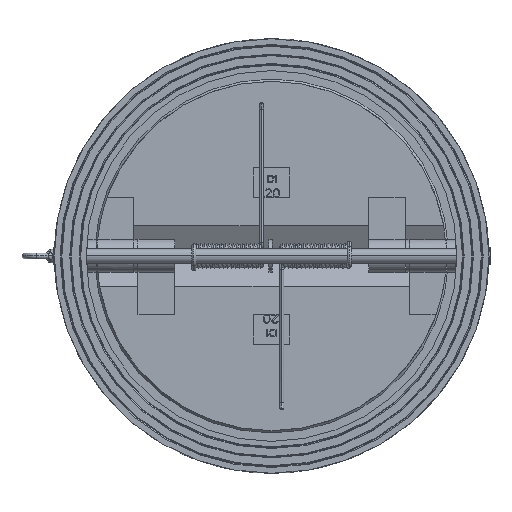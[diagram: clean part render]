
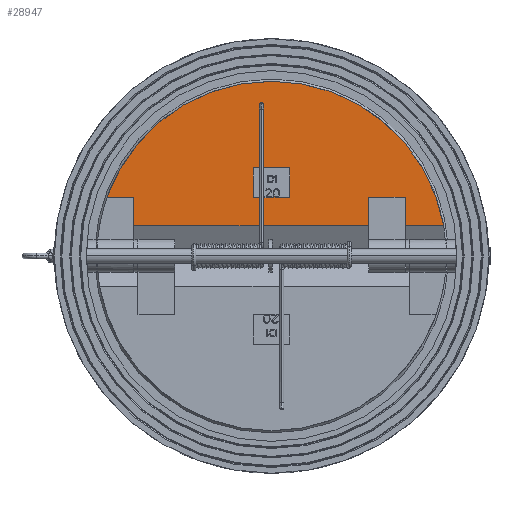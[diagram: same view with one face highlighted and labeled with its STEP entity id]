
A CAD part, front view. The second image highlights one B-rep face of the part: STEP entity #28947.
In plain terms, the highlighted planar face has unit normal (0, -1, 0) as drawn and (0, 1, 0) by its records, which use the part's own axes.
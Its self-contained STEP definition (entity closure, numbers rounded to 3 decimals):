
#27253=CARTESIAN_POINT('',(0.,26.,0.));
#27254=DIRECTION('',(0.,1.,0.));
#27255=DIRECTION('',(0.985,0.,-0.173));
#27256=AXIS2_PLACEMENT_3D('',#27253,#27254,#27255);
#27258=DIRECTION('',(1.,0.,0.));
#27259=VECTOR('',#27258,52.411);
#27260=CARTESIAN_POINT('',(182.,26.,-41.177));
#27261=LINE('',#27260,#27259);
#27262=DIRECTION('',(0.,0.,-1.));
#27263=VECTOR('',#27262,39.125);
#27264=CARTESIAN_POINT('',(182.,26.,-41.177));
#27265=LINE('',#27264,#27263);
#27266=DIRECTION('',(1.,0.,0.));
#27267=VECTOR('',#27266,50.);
#27268=CARTESIAN_POINT('',(132.,26.,-80.302));
#27269=LINE('',#27268,#27267);
#27270=DIRECTION('',(0.,0.,-1.));
#27271=VECTOR('',#27270,39.125);
#27272=CARTESIAN_POINT('',(132.,26.,-41.177));
#27273=LINE('',#27272,#27271);
#27274=DIRECTION('',(1.,0.,0.));
#27275=VECTOR('',#27274,320.);
#27276=CARTESIAN_POINT('',(-188.,26.,-41.177));
#27277=LINE('',#27276,#27275);
#27278=DIRECTION('',(0.,0.,-1.));
#27279=VECTOR('',#27278,39.125);
#27280=CARTESIAN_POINT('',(-188.,26.,-41.177));
#27281=LINE('',#27280,#27279);
#27282=DIRECTION('',(1.,0.,0.));
#27283=VECTOR('',#27282,36.044);
#27284=CARTESIAN_POINT('',(-224.044,26.,-80.302));
#27285=LINE('',#27284,#27283);
#27286=DIRECTION('',(1.,0.,0.));
#27287=VECTOR('',#27286,16.);
#27288=CARTESIAN_POINT('',(-25.,26.,-80.));
#27289=LINE('',#27288,#27287);
#27290=DIRECTION('',(0.,0.,1.));
#27291=VECTOR('',#27290,0.39);
#27292=CARTESIAN_POINT('',(-9.,26.,-80.));
#27293=LINE('',#27292,#27291);
#27294=DIRECTION('',(1.,0.,0.));
#27295=VECTOR('',#27294,9.);
#27296=CARTESIAN_POINT('',(-9.,26.,-79.61));
#27297=LINE('',#27296,#27295);
#27298=DIRECTION('',(0.,0.,-1.));
#27299=VECTOR('',#27298,0.39);
#27300=CARTESIAN_POINT('',(0.,26.,-79.61));
#27301=LINE('',#27300,#27299);
#27302=DIRECTION('',(1.,0.,0.));
#27303=VECTOR('',#27302,4.78);
#27304=CARTESIAN_POINT('',(0.,26.,-80.));
#27305=LINE('',#27304,#27303);
#27306=DIRECTION('',(0.853,0.,0.522));
#27307=VECTOR('',#27306,0.258);
#27308=CARTESIAN_POINT('',(4.78,26.,-80.));
#27309=LINE('',#27308,#27307);
#27310=DIRECTION('',(0.986,0.,0.168));
#27311=VECTOR('',#27310,1.522);
#27312=CARTESIAN_POINT('',(5.,26.,-79.865));
#27313=LINE('',#27312,#27311);
#27314=DIRECTION('',(0.986,0.,-0.168));
#27315=VECTOR('',#27314,1.522);
#27316=CARTESIAN_POINT('',(6.5,26.,-79.61));
#27317=LINE('',#27316,#27315);
#27318=DIRECTION('',(0.853,0.,-0.522));
#27319=VECTOR('',#27318,0.258);
#27320=CARTESIAN_POINT('',(8.,26.,-79.865));
#27321=LINE('',#27320,#27319);
#27322=DIRECTION('',(1.,0.,0.));
#27323=VECTOR('',#27322,16.78);
#27324=CARTESIAN_POINT('',(8.22,26.,-80.));
#27325=LINE('',#27324,#27323);
#27326=DIRECTION('',(0.,0.,-1.));
#27327=VECTOR('',#27326,40.);
#27328=CARTESIAN_POINT('',(25.,26.,-80.));
#27329=LINE('',#27328,#27327);
#27330=DIRECTION('',(-1.,0.,0.));
#27331=VECTOR('',#27330,50.);
#27332=CARTESIAN_POINT('',(25.,26.,-120.));
#27333=LINE('',#27332,#27331);
#27334=DIRECTION('',(0.,0.,1.));
#27335=VECTOR('',#27334,40.);
#27336=CARTESIAN_POINT('',(-25.,26.,-120.));
#27337=LINE('',#27336,#27335);
#27355=CARTESIAN_POINT('',(234.411,26.,-41.177));
#28493=VERTEX_POINT('',#27355);
#28498=CARTESIAN_POINT('',(-188.,26.,-41.177));
#28499=CARTESIAN_POINT('',(-188.,26.,-80.302));
#28500=VERTEX_POINT('',#28498);
#28501=VERTEX_POINT('',#28499);
#28508=CARTESIAN_POINT('',(-224.044,26.,-80.302));
#28509=VERTEX_POINT('',#28508);
#28526=CARTESIAN_POINT('',(-25.,26.,-120.));
#28527=CARTESIAN_POINT('',(-25.,26.,-80.));
#28528=VERTEX_POINT('',#28526);
#28529=VERTEX_POINT('',#28527);
#28530=CARTESIAN_POINT('',(25.,26.,-80.));
#28531=CARTESIAN_POINT('',(25.,26.,-120.));
#28532=VERTEX_POINT('',#28530);
#28533=VERTEX_POINT('',#28531);
#28674=CARTESIAN_POINT('',(182.,26.,-41.177));
#28675=CARTESIAN_POINT('',(182.,26.,-80.302));
#28676=VERTEX_POINT('',#28674);
#28677=VERTEX_POINT('',#28675);
#28678=CARTESIAN_POINT('',(132.,26.,-41.177));
#28679=CARTESIAN_POINT('',(132.,26.,-80.302));
#28680=VERTEX_POINT('',#28678);
#28681=VERTEX_POINT('',#28679);
#28686=CARTESIAN_POINT('',(-9.,26.,-80.));
#28687=CARTESIAN_POINT('',(0.,26.,-80.));
#28688=VERTEX_POINT('',#28686);
#28689=VERTEX_POINT('',#28687);
#28690=CARTESIAN_POINT('',(4.78,26.,-80.));
#28691=CARTESIAN_POINT('',(8.22,26.,-80.));
#28692=VERTEX_POINT('',#28690);
#28693=VERTEX_POINT('',#28691);
#28694=CARTESIAN_POINT('',(-9.,26.,-79.61));
#28695=VERTEX_POINT('',#28694);
#28696=CARTESIAN_POINT('',(0.,26.,-79.61));
#28697=VERTEX_POINT('',#28696);
#28875=CARTESIAN_POINT('',(5.,26.,-79.865));
#28876=VERTEX_POINT('',#28875);
#28877=CARTESIAN_POINT('',(6.5,26.,-79.61));
#28878=VERTEX_POINT('',#28877);
#28879=CARTESIAN_POINT('',(8.,26.,-79.865));
#28880=VERTEX_POINT('',#28879);
#28897=CARTESIAN_POINT('',(0.,26.,0.));
#28898=DIRECTION('',(0.,1.,0.));
#28899=DIRECTION('',(1.,0.,0.));
#28900=AXIS2_PLACEMENT_3D('',#28897,#28898,#28899);
#28901=PLANE('',#28900);
#28903=ORIENTED_EDGE('',*,*,#28902,.F.);
#28905=ORIENTED_EDGE('',*,*,#28904,.F.);
#28907=ORIENTED_EDGE('',*,*,#28906,.T.);
#28909=ORIENTED_EDGE('',*,*,#28908,.F.);
#28911=ORIENTED_EDGE('',*,*,#28910,.F.);
#28913=ORIENTED_EDGE('',*,*,#28912,.F.);
#28915=ORIENTED_EDGE('',*,*,#28914,.T.);
#28917=ORIENTED_EDGE('',*,*,#28916,.F.);
#28918=EDGE_LOOP('',(#28903,#28905,#28907,#28909,#28911,#28913,#28915,#28917));
#28919=FACE_OUTER_BOUND('',#28918,.F.);
#28921=ORIENTED_EDGE('',*,*,#28920,.T.);
#28923=ORIENTED_EDGE('',*,*,#28922,.T.);
#28925=ORIENTED_EDGE('',*,*,#28924,.T.);
#28927=ORIENTED_EDGE('',*,*,#28926,.T.);
#28929=ORIENTED_EDGE('',*,*,#28928,.T.);
#28931=ORIENTED_EDGE('',*,*,#28930,.T.);
#28932=ORIENTED_EDGE('',*,*,#28886,.T.);
#28934=ORIENTED_EDGE('',*,*,#28933,.T.);
#28936=ORIENTED_EDGE('',*,*,#28935,.T.);
#28938=ORIENTED_EDGE('',*,*,#28937,.T.);
#28940=ORIENTED_EDGE('',*,*,#28939,.T.);
#28942=ORIENTED_EDGE('',*,*,#28941,.T.);
#28944=ORIENTED_EDGE('',*,*,#28943,.T.);
#28945=EDGE_LOOP('',(#28921,#28923,#28925,#28927,#28929,#28931,#28932,#28934,
#28936,#28938,#28940,#28942,#28944));
#28946=FACE_BOUND('',#28945,.F.);
#27257=CIRCLE('',#27256,238.);
#28886=EDGE_CURVE('',#28876,#28878,#27313,.T.);
#28902=EDGE_CURVE('',#28493,#28509,#27257,.T.);
#28904=EDGE_CURVE('',#28676,#28493,#27261,.T.);
#28906=EDGE_CURVE('',#28676,#28677,#27265,.T.);
#28908=EDGE_CURVE('',#28681,#28677,#27269,.T.);
#28910=EDGE_CURVE('',#28680,#28681,#27273,.T.);
#28912=EDGE_CURVE('',#28500,#28680,#27277,.T.);
#28914=EDGE_CURVE('',#28500,#28501,#27281,.T.);
#28916=EDGE_CURVE('',#28509,#28501,#27285,.T.);
#28920=EDGE_CURVE('',#28529,#28688,#27289,.T.);
#28922=EDGE_CURVE('',#28688,#28695,#27293,.T.);
#28924=EDGE_CURVE('',#28695,#28697,#27297,.T.);
#28926=EDGE_CURVE('',#28697,#28689,#27301,.T.);
#28928=EDGE_CURVE('',#28689,#28692,#27305,.T.);
#28930=EDGE_CURVE('',#28692,#28876,#27309,.T.);
#28933=EDGE_CURVE('',#28878,#28880,#27317,.T.);
#28935=EDGE_CURVE('',#28880,#28693,#27321,.T.);
#28937=EDGE_CURVE('',#28693,#28532,#27325,.T.);
#28939=EDGE_CURVE('',#28532,#28533,#27329,.T.);
#28941=EDGE_CURVE('',#28533,#28528,#27333,.T.);
#28943=EDGE_CURVE('',#28528,#28529,#27337,.T.);
#28947=ADVANCED_FACE('',(#28919,#28946),#28901,.T.);
